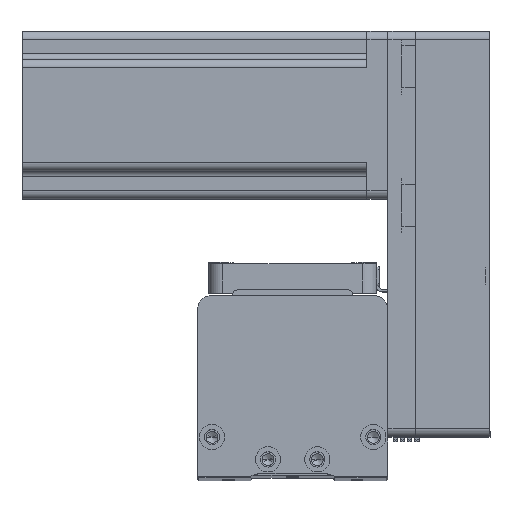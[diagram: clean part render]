
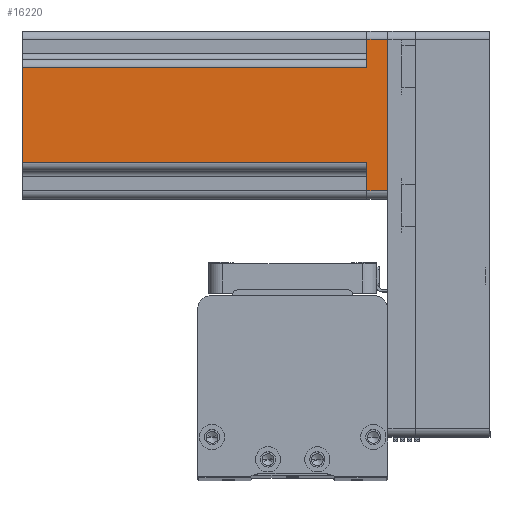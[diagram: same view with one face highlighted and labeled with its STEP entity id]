
A CAD part, top view. The second image highlights one B-rep face of the part: STEP entity #16220.
In plain terms, the highlighted planar face has unit normal (0, 0, 1) as drawn and (0, -1, 0) by its records, which use the part's own axes.
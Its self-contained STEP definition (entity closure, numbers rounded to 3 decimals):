
#1551 = VERTEX_POINT ( 'NONE', #4219 ) ;
#2357 = DIRECTION ( 'NONE',  ( 1., 0., 0. ) ) ;
#2372 = CARTESIAN_POINT ( 'NONE',  ( -17., -30., 130.7 ) ) ;
#3553 = ORIENTED_EDGE ( 'NONE', *, *, #30192, .F. ) ;
#3768 = ORIENTED_EDGE ( 'NONE', *, *, #12629, .T. ) ;
#4072 = DIRECTION ( 'NONE',  ( 0., 0., -1. ) ) ;
#4219 = CARTESIAN_POINT ( 'NONE',  ( 17., -30., 7.5 ) ) ;
#5828 = VECTOR ( 'NONE', #4072, 1000. ) ;
#7687 = LINE ( 'NONE', #44109, #26241 ) ;
#7787 = VERTEX_POINT ( 'NONE', #2372 ) ;
#8524 = CARTESIAN_POINT ( 'NONE',  ( 27., -30., 0. ) ) ;
#8755 = VECTOR ( 'NONE', #2357, 1000. ) ;
#9078 = VECTOR ( 'NONE', #13411, 1000. ) ;
#9477 = CARTESIAN_POINT ( 'NONE',  ( 20., -30., 7.5 ) ) ;
#9690 = DIRECTION ( 'NONE',  ( 1., 0., 0. ) ) ;
#10886 = CARTESIAN_POINT ( 'NONE',  ( 30., -30., 130.7 ) ) ;
#11796 = VECTOR ( 'NONE', #15337, 1000. ) ;
#12629 = EDGE_CURVE ( 'NONE', #14646, #26980, #35805, .T. ) ;
#12916 = LINE ( 'NONE', #32918, #11796 ) ;
#13354 = EDGE_CURVE ( 'NONE', #39525, #1551, #26426, .T. ) ;
#13411 = DIRECTION ( 'NONE',  ( 0., 0., -1. ) ) ;
#14405 = DIRECTION ( 'NONE',  ( -1., 0., 0. ) ) ;
#14646 = VERTEX_POINT ( 'NONE', #45084 ) ;
#15071 = LINE ( 'NONE', #38788, #5828 ) ;
#15337 = DIRECTION ( 'NONE',  ( 0., 0., 1. ) ) ;
#16023 = VECTOR ( 'NONE', #9690, 1000. ) ;
#16220 = ADVANCED_FACE ( 'NONE', ( #39992 ), #17748, .F. ) ;
#17133 = VECTOR ( 'NONE', #26990, 1000. ) ;
#17278 = ORIENTED_EDGE ( 'NONE', *, *, #39155, .F. ) ;
#17748 = PLANE ( 'NONE',  #32084 ) ;
#18701 = VERTEX_POINT ( 'NONE', #19897 ) ;
#19778 = DIRECTION ( 'NONE',  ( 1., 0., 0. ) ) ;
#19897 = CARTESIAN_POINT ( 'NONE',  ( 17., -30., 130.7 ) ) ;
#20207 = LINE ( 'NONE', #37123, #8755 ) ;
#20426 = ORIENTED_EDGE ( 'NONE', *, *, #13354, .T. ) ;
#21051 = ORIENTED_EDGE ( 'NONE', *, *, #42143, .T. ) ;
#22765 = EDGE_CURVE ( 'NONE', #7787, #33567, #15071, .T. ) ;
#23447 = ORIENTED_EDGE ( 'NONE', *, *, #32169, .T. ) ;
#23698 = CARTESIAN_POINT ( 'NONE',  ( -20., -30., 7.5 ) ) ;
#24170 = ORIENTED_EDGE ( 'NONE', *, *, #30844, .T. ) ;
#26241 = VECTOR ( 'NONE', #19778, 1000. ) ;
#26426 = LINE ( 'NONE', #9477, #17133 ) ;
#26980 = VERTEX_POINT ( 'NONE', #37601 ) ;
#26990 = DIRECTION ( 'NONE',  ( -1., 0., 0. ) ) ;
#27809 = CARTESIAN_POINT ( 'NONE',  ( 27., -30., 7.5 ) ) ;
#28586 = VERTEX_POINT ( 'NONE', #8524 ) ;
#30192 = EDGE_CURVE ( 'NONE', #7787, #18701, #7687, .T. ) ;
#30844 = EDGE_CURVE ( 'NONE', #26980, #28586, #20207, .T. ) ;
#31688 = VECTOR ( 'NONE', #42464, 1000. ) ;
#32084 = AXIS2_PLACEMENT_3D ( 'NONE', #10886, #35305, #14405 ) ;
#32169 = EDGE_CURVE ( 'NONE', #1551, #18701, #12916, .T. ) ;
#32918 = CARTESIAN_POINT ( 'NONE',  ( 17., -30., 130.7 ) ) ;
#33567 = VERTEX_POINT ( 'NONE', #41256 ) ;
#35305 = DIRECTION ( 'NONE',  ( 0., 1., 0. ) ) ;
#35608 = EDGE_LOOP ( 'NONE', ( #3553, #40064, #17278, #3768, #24170, #21051, #20426, #23447 ) ) ;
#35696 = LINE ( 'NONE', #23698, #16023 ) ;
#35805 = LINE ( 'NONE', #37766, #9078 ) ;
#37123 = CARTESIAN_POINT ( 'NONE',  ( 30., -30., 0. ) ) ;
#37601 = CARTESIAN_POINT ( 'NONE',  ( -27., -30., 0. ) ) ;
#37766 = CARTESIAN_POINT ( 'NONE',  ( -27., -30., 130.7 ) ) ;
#38788 = CARTESIAN_POINT ( 'NONE',  ( -17., -30., 130.7 ) ) ;
#38992 = CARTESIAN_POINT ( 'NONE',  ( 27., -30., 130.7 ) ) ;
#39155 = EDGE_CURVE ( 'NONE', #14646, #33567, #35696, .T. ) ;
#39525 = VERTEX_POINT ( 'NONE', #27809 ) ;
#39992 = FACE_OUTER_BOUND ( 'NONE', #35608, .T. ) ;
#40064 = ORIENTED_EDGE ( 'NONE', *, *, #22765, .T. ) ;
#40903 = LINE ( 'NONE', #38992, #31688 ) ;
#41256 = CARTESIAN_POINT ( 'NONE',  ( -17., -30., 7.5 ) ) ;
#42143 = EDGE_CURVE ( 'NONE', #28586, #39525, #40903, .T. ) ;
#42464 = DIRECTION ( 'NONE',  ( 0., 0., 1. ) ) ;
#44109 = CARTESIAN_POINT ( 'NONE',  ( 30., -30., 130.7 ) ) ;
#45084 = CARTESIAN_POINT ( 'NONE',  ( -27., -30., 7.5 ) ) ;
